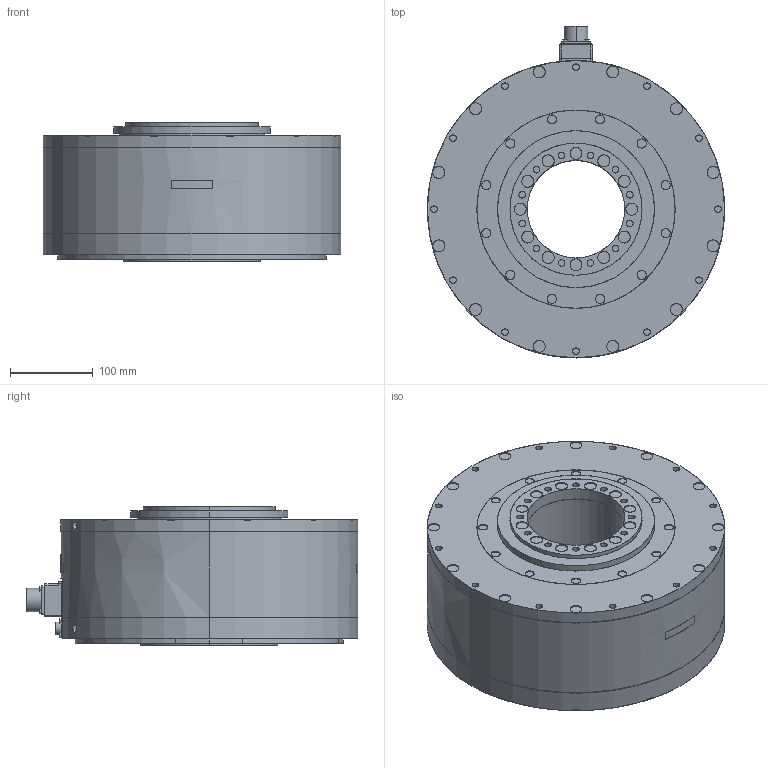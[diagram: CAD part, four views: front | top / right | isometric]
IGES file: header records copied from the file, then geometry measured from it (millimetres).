
Start section: SolidWorks IGES file using analytic representation for surfaces
Bounding box: 360 x 402.1 x 167.5 mm (x, y, z)
Surface area: 476514.4 mm2 (no closed solid volume)
Topology: 0 solids, 0 shells, 540 faces, 11852 edges, 11852 vertices
Faces by surface type: revolution 326, bspline 214
